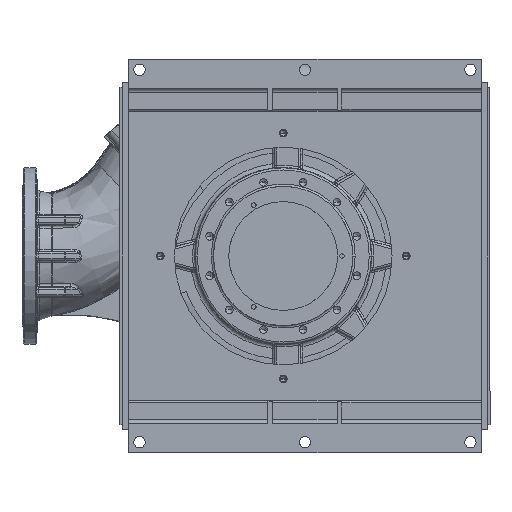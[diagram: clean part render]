
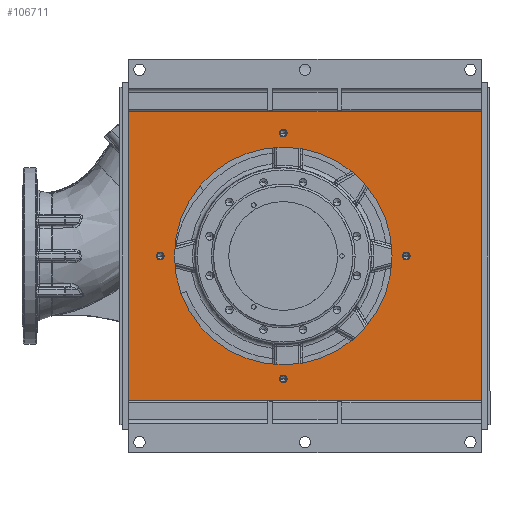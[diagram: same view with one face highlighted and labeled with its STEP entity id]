
A CAD part, front view. The second image highlights one B-rep face of the part: STEP entity #106711.
In plain terms, the highlighted planar face has unit normal (0, -1, 0).
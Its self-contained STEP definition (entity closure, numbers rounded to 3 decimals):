
#1290 = ORIENTED_EDGE ( 'NONE', *, *, #108290, .T. ) ;
#2424 = FACE_BOUND ( 'NONE', #90837, .T. ) ;
#3306 = AXIS2_PLACEMENT_3D ( 'NONE', #58469, #139794, #70117 ) ;
#7194 = EDGE_LOOP ( 'NONE', ( #1290, #140967 ) ) ;
#7429 = ORIENTED_EDGE ( 'NONE', *, *, #90523, .T. ) ;
#8929 = DIRECTION ( 'NONE',  ( -1., 0., 0. ) ) ;
#9511 = DIRECTION ( 'NONE',  ( -1., 0., 0. ) ) ;
#9782 = DIRECTION ( 'NONE',  ( 0., 1., 0. ) ) ;
#10981 = EDGE_CURVE ( 'NONE', #52304, #51185, #149846, .T. ) ;
#19853 = CARTESIAN_POINT ( 'NONE',  ( 47.852, -873.637, 271.137 ) ) ;
#21074 = LINE ( 'NONE', #74014, #52110 ) ;
#21415 = CIRCLE ( 'NONE', #3306, 9. ) ;
#21440 = VERTEX_POINT ( 'NONE', #136997 ) ;
#21460 = AXIS2_PLACEMENT_3D ( 'NONE', #79637, #9782, #91327 ) ;
#21638 = AXIS2_PLACEMENT_3D ( 'NONE', #19853, #101313, #31603 ) ;
#23287 = CARTESIAN_POINT ( 'NONE',  ( 56.852, -873.637, 271.137 ) ) ;
#23542 = VERTEX_POINT ( 'NONE', #33380 ) ;
#26925 = CIRCLE ( 'NONE', #88361, 9. ) ;
#27193 = CARTESIAN_POINT ( 'NONE',  ( 38.852, -873.637, -293.863 ) ) ;
#28239 = VECTOR ( 'NONE', #119387, 1000. ) ;
#28730 = CIRCLE ( 'NONE', #45558, 9. ) ;
#29544 = AXIS2_PLACEMENT_3D ( 'NONE', #62247, #143566, #73867 ) ;
#29795 = FACE_BOUND ( 'NONE', #7194, .T. ) ;
#30119 = EDGE_CURVE ( 'NONE', #134433, #60700, #46918, .T. ) ;
#30395 = LINE ( 'NONE', #38770, #92348 ) ;
#31603 = DIRECTION ( 'NONE',  ( -1., 0., 0. ) ) ;
#33380 = CARTESIAN_POINT ( 'NONE',  ( -307.148, -873.637, -343.863 ) ) ;
#33872 = EDGE_CURVE ( 'NONE', #60700, #23542, #121114, .T. ) ;
#35169 = CIRCLE ( 'NONE', #21638, 9. ) ;
#36122 = ORIENTED_EDGE ( 'NONE', *, *, #145186, .T. ) ;
#36276 = EDGE_LOOP ( 'NONE', ( #56275, #144676 ) ) ;
#36307 = EDGE_CURVE ( 'NONE', #46323, #50603, #45528, .T. ) ;
#37515 = CARTESIAN_POINT ( 'NONE',  ( 47.852, -873.637, -293.863 ) ) ;
#38770 = CARTESIAN_POINT ( 'NONE',  ( -307.148, -873.637, -343.863 ) ) ;
#39622 = VECTOR ( 'NONE', #125958, 1000. ) ;
#40968 = VERTEX_POINT ( 'NONE', #53418 ) ;
#40969 = CARTESIAN_POINT ( 'NONE',  ( 47.852, -873.637, 271.137 ) ) ;
#43405 = EDGE_CURVE ( 'NONE', #58262, #67280, #28730, .T. ) ;
#43810 = CIRCLE ( 'NONE', #98774, 9. ) ;
#45528 = CIRCLE ( 'NONE', #29544, 9. ) ;
#45558 = AXIS2_PLACEMENT_3D ( 'NONE', #37515, #118907, #49244 ) ;
#45878 = AXIS2_PLACEMENT_3D ( 'NONE', #149046, #79362, #9511 ) ;
#46323 = VERTEX_POINT ( 'NONE', #120404 ) ;
#46918 = LINE ( 'NONE', #114182, #39622 ) ;
#49244 = DIRECTION ( 'NONE',  ( -1., 0., 0. ) ) ;
#50435 = VERTEX_POINT ( 'NONE', #64169 ) ;
#50603 = VERTEX_POINT ( 'NONE', #68181 ) ;
#51185 = VERTEX_POINT ( 'NONE', #137651 ) ;
#52110 = VECTOR ( 'NONE', #143706, 1000. ) ;
#52304 = VERTEX_POINT ( 'NONE', #62971 ) ;
#52734 = DIRECTION ( 'NONE',  ( -1., 0., 0. ) ) ;
#53418 = CARTESIAN_POINT ( 'NONE',  ( 38.852, -873.637, 271.137 ) ) ;
#53489 = CARTESIAN_POINT ( 'NONE',  ( 297.852, -873.637, -11.363 ) ) ;
#53561 = CARTESIAN_POINT ( 'NONE',  ( -327.148, -873.637, -398.863 ) ) ;
#56275 = ORIENTED_EDGE ( 'NONE', *, *, #82873, .T. ) ;
#58262 = VERTEX_POINT ( 'NONE', #27193 ) ;
#58469 = CARTESIAN_POINT ( 'NONE',  ( -234.648, -873.637, -11.363 ) ) ;
#58973 = AXIS2_PLACEMENT_3D ( 'NONE', #129220, #59581, #140884 ) ;
#59178 = ORIENTED_EDGE ( 'NONE', *, *, #106736, .T. ) ;
#59581 = DIRECTION ( 'NONE',  ( 0., 1., 0. ) ) ;
#60110 = CARTESIAN_POINT ( 'NONE',  ( 47.852, -873.637, -293.863 ) ) ;
#60330 = EDGE_CURVE ( 'NONE', #134433, #21440, #21074, .T. ) ;
#60700 = VERTEX_POINT ( 'NONE', #121108 ) ;
#60844 = FACE_BOUND ( 'NONE', #116051, .T. ) ;
#61354 = ORIENTED_EDGE ( 'NONE', *, *, #84539, .T. ) ;
#62247 = CARTESIAN_POINT ( 'NONE',  ( -234.648, -873.637, -11.363 ) ) ;
#62971 = CARTESIAN_POINT ( 'NONE',  ( 339.352, -873.637, -11.363 ) ) ;
#64169 = CARTESIAN_POINT ( 'NONE',  ( -202.148, -873.637, -11.363 ) ) ;
#64489 = FACE_BOUND ( 'NONE', #142173, .T. ) ;
#64554 = AXIS2_PLACEMENT_3D ( 'NONE', #148455, #78777, #8929 ) ;
#64773 = PLANE ( 'NONE',  #141593 ) ;
#65268 = DIRECTION ( 'NONE',  ( -1., 0., 0. ) ) ;
#67280 = VERTEX_POINT ( 'NONE', #125618 ) ;
#68181 = CARTESIAN_POINT ( 'NONE',  ( -243.648, -873.637, -11.363 ) ) ;
#70117 = DIRECTION ( 'NONE',  ( -1., 0., 0. ) ) ;
#71766 = DIRECTION ( 'NONE',  ( -1., 0., 0. ) ) ;
#71991 = VERTEX_POINT ( 'NONE', #53489 ) ;
#73867 = DIRECTION ( 'NONE',  ( -1., 0., 0. ) ) ;
#74014 = CARTESIAN_POINT ( 'NONE',  ( 502.852, -873.637, -409.363 ) ) ;
#78777 = DIRECTION ( 'NONE',  ( 0., 1., 0. ) ) ;
#79362 = DIRECTION ( 'NONE',  ( 0., 1., 0. ) ) ;
#79637 = CARTESIAN_POINT ( 'NONE',  ( 330.352, -873.637, -11.363 ) ) ;
#79928 = ORIENTED_EDGE ( 'NONE', *, *, #33872, .T. ) ;
#82873 = EDGE_CURVE ( 'NONE', #51185, #52304, #131145, .T. ) ;
#83524 = ORIENTED_EDGE ( 'NONE', *, *, #85869, .T. ) ;
#84539 = EDGE_CURVE ( 'NONE', #67280, #58262, #43810, .T. ) ;
#85869 = EDGE_CURVE ( 'NONE', #50603, #46323, #21415, .T. ) ;
#88361 = AXIS2_PLACEMENT_3D ( 'NONE', #40969, #122365, #52734 ) ;
#89506 = VERTEX_POINT ( 'NONE', #23287 ) ;
#90523 = EDGE_CURVE ( 'NONE', #23542, #21440, #30395, .T. ) ;
#90837 = EDGE_LOOP ( 'NONE', ( #36122, #59178 ) ) ;
#91327 = DIRECTION ( 'NONE',  ( -1., 0., 0. ) ) ;
#91752 = FACE_BOUND ( 'NONE', #36276, .T. ) ;
#92348 = VECTOR ( 'NONE', #132914, 1000. ) ;
#96937 = CARTESIAN_POINT ( 'NONE',  ( 502.852, -873.637, 321.137 ) ) ;
#98774 = AXIS2_PLACEMENT_3D ( 'NONE', #60110, #141441, #71766 ) ;
#101313 = DIRECTION ( 'NONE',  ( 0., 1., 0. ) ) ;
#106711 = ADVANCED_FACE ( 'NONE', ( #60844, #64489, #2424, #91752, #29795, #150009 ), #64773, .F. ) ;
#106736 = EDGE_CURVE ( 'NONE', #89506, #40968, #35169, .T. ) ;
#108290 = EDGE_CURVE ( 'NONE', #50435, #71991, #118416, .T. ) ;
#113024 = ORIENTED_EDGE ( 'NONE', *, *, #30119, .T. ) ;
#114182 = CARTESIAN_POINT ( 'NONE',  ( 502.852, -873.637, 321.137 ) ) ;
#116051 = EDGE_LOOP ( 'NONE', ( #142114, #61354 ) ) ;
#118416 = CIRCLE ( 'NONE', #58973, 250. ) ;
#118907 = DIRECTION ( 'NONE',  ( 0., 1., 0. ) ) ;
#119387 = DIRECTION ( 'NONE',  ( 0., 0., -1. ) ) ;
#120404 = CARTESIAN_POINT ( 'NONE',  ( -225.648, -873.637, -11.363 ) ) ;
#121108 = CARTESIAN_POINT ( 'NONE',  ( -307.148, -873.637, 321.137 ) ) ;
#121114 = LINE ( 'NONE', #130636, #28239 ) ;
#122365 = DIRECTION ( 'NONE',  ( 0., 1., 0. ) ) ;
#125064 = ORIENTED_EDGE ( 'NONE', *, *, #60330, .F. ) ;
#125618 = CARTESIAN_POINT ( 'NONE',  ( 56.852, -873.637, -293.863 ) ) ;
#125958 = DIRECTION ( 'NONE',  ( -1., 0., 0. ) ) ;
#129220 = CARTESIAN_POINT ( 'NONE',  ( 47.852, -873.637, -11.363 ) ) ;
#130189 = EDGE_CURVE ( 'NONE', #71991, #50435, #139054, .T. ) ;
#130636 = CARTESIAN_POINT ( 'NONE',  ( -307.148, -873.637, -409.363 ) ) ;
#131145 = CIRCLE ( 'NONE', #64554, 9. ) ;
#132914 = DIRECTION ( 'NONE',  ( 1., 0., 0. ) ) ;
#134433 = VERTEX_POINT ( 'NONE', #96937 ) ;
#134937 = DIRECTION ( 'NONE',  ( 0., 1., 0. ) ) ;
#136617 = EDGE_LOOP ( 'NONE', ( #125064, #113024, #79928, #7429 ) ) ;
#136997 = CARTESIAN_POINT ( 'NONE',  ( 502.852, -873.637, -343.863 ) ) ;
#137651 = CARTESIAN_POINT ( 'NONE',  ( 321.352, -873.637, -11.363 ) ) ;
#139054 = CIRCLE ( 'NONE', #45878, 250. ) ;
#139794 = DIRECTION ( 'NONE',  ( 0., 1., 0. ) ) ;
#140360 = ORIENTED_EDGE ( 'NONE', *, *, #36307, .T. ) ;
#140884 = DIRECTION ( 'NONE',  ( -1., 0., 0. ) ) ;
#140967 = ORIENTED_EDGE ( 'NONE', *, *, #130189, .T. ) ;
#141441 = DIRECTION ( 'NONE',  ( 0., 1., 0. ) ) ;
#141593 = AXIS2_PLACEMENT_3D ( 'NONE', #53561, #134937, #65268 ) ;
#142114 = ORIENTED_EDGE ( 'NONE', *, *, #43405, .T. ) ;
#142173 = EDGE_LOOP ( 'NONE', ( #83524, #140360 ) ) ;
#143566 = DIRECTION ( 'NONE',  ( 0., 1., 0. ) ) ;
#143706 = DIRECTION ( 'NONE',  ( 0., 0., -1. ) ) ;
#144676 = ORIENTED_EDGE ( 'NONE', *, *, #10981, .T. ) ;
#145186 = EDGE_CURVE ( 'NONE', #40968, #89506, #26925, .T. ) ;
#148455 = CARTESIAN_POINT ( 'NONE',  ( 330.352, -873.637, -11.363 ) ) ;
#149046 = CARTESIAN_POINT ( 'NONE',  ( 47.852, -873.637, -11.363 ) ) ;
#149846 = CIRCLE ( 'NONE', #21460, 9. ) ;
#150009 = FACE_OUTER_BOUND ( 'NONE', #136617, .T. ) ;
